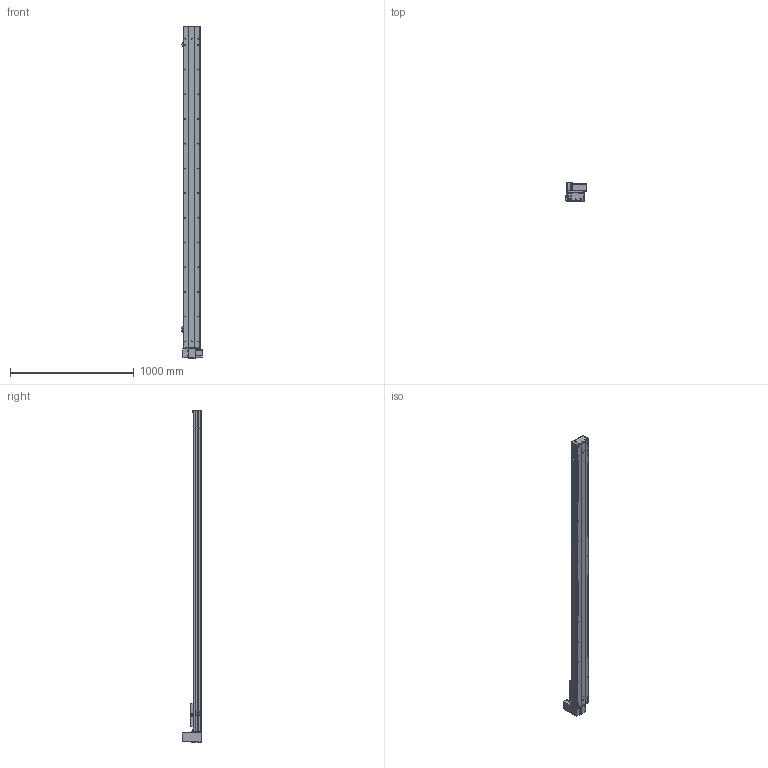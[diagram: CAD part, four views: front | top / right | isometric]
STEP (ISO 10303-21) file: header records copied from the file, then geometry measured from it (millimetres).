
FILE_DESCRIPTION (( 'STEP AP203' ), '1' );
FILE_NAME ('Y135CB-D90-S2300-UR-P400W.STEP', '2020-02-18T06:31:42', ( '微软用户' ), ( '微软中国' ), 'SwSTEP 2.0', 'SolidWorks 2017', '' );
FILE_SCHEMA (( 'CONFIG_CONTROL_DESIGN' ));
Length unit declared in the file: millimetre
Products named in the file (18): Y135CB-耜裔; Y135CB-D90-S2300-UR-P400W; 135CB--詩湍-CE; 135CB---遴掛极.-; Y100-135俋离換覜ん--; 35CB---喘謫眊楊擘啣; Y135C-陔俋离換覜結え-; 0B-埴倛裔啣; 5C--俋欶; 0B-源倛裔啣; C-雄赽釱--; 0B-萇儂楊擘啣; Y10B--々湍喘謫眊--666; san松下电机400不带刹车----; Y10B-耜蚾蟀諉啣----; 5CB --掛极耜裔啣-; 00B-俋欶BM--; C-詩湍揤踡え-陔
Assembly tree (21 placements, depth 2):
  Y135CB-D90-S2300-UR-P400W
    Y135CB-耜裔
    135CB---遴掛极.-
    35CB---喘謫眊楊擘啣
    0B-埴倛裔啣
    0B-源倛裔啣
    0B-萇儂楊擘啣
    san松下电机400不带刹车----
    5CB --掛极耜裔啣-  x2
    C-詩湍揤踡え-陔  x2
    135CB--詩湍-CE
    Y100-135俋离換覜ん--  x3
    Y135C-陔俋离換覜結え-
    5C--俋欶
    C-雄赽釱--
    Y10B--々湍喘謫眊--666
    Y10B-耜蚾蟀諉啣----
    00B-俋欶BM--
Bounding box: 167.5 x 158.7 x 2688 mm (x, y, z)
Volume: 7762323.4 mm3; surface area: 3071550.7 mm2
Topology: 21 solids, 21 shells, 973 faces, 2653 edges, 1758 vertices
Faces by surface type: cylinder 501, plane 456, cone 16
Entity records: 30763 total; most frequent: CARTESIAN_POINT 5120, DIRECTION 5113, ORIENTED_EDGE 4782, EDGE_CURVE 2391, AXIS2_PLACEMENT_3D 1875, VERTEX_POINT 1586, LINE 1363, VECTOR 1363
